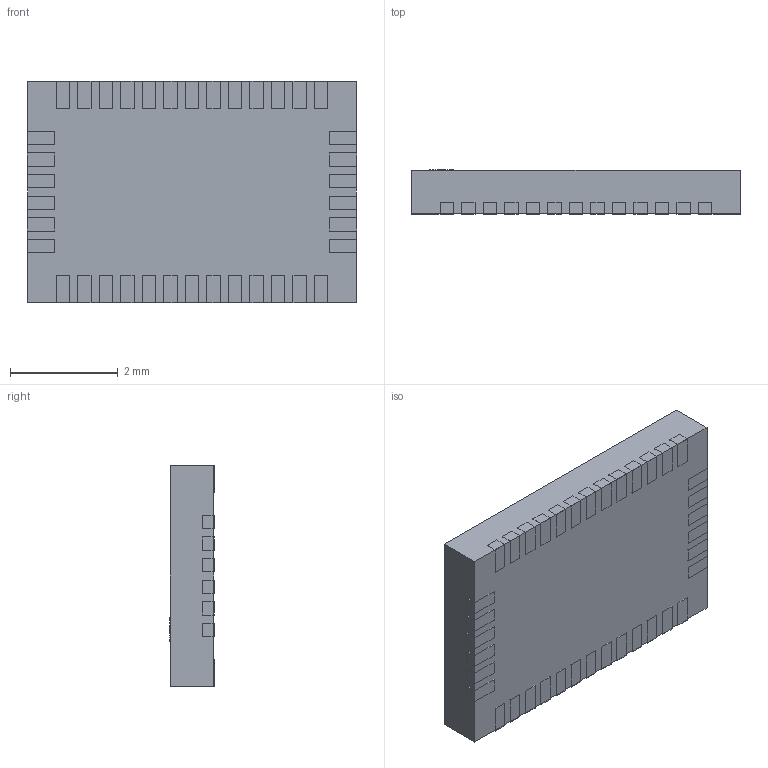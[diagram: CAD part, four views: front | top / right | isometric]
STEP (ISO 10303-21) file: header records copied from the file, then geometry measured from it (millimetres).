
FILE_DESCRIPTION(/* description */ (''),/* implementation_level */ '2;1');
FILE_NAME(/* name */ 'WQFN38-EP6x4.step',/* time_stamp */ '2024-01-28T14:04:19+01:00',/* author */ (''),/* organization */ (''),/* preprocessor_version */ 'ST-DEVELOPER v20',/* originating_system */ 'Autodesk Translation Framework v12.14.0.127',/* authorisation */ '');
FILE_SCHEMA (('AUTOMOTIVE_DESIGN { 1 0 10303 214 3 1 1 }'));
Length unit declared in the file: millimetre
Products named in the file (3): WQFN38-EP6x4; Body; pads
Assembly tree (2 placements, depth 2):
  WQFN38-EP6x4
    Body
    pads
Bounding box: 6.12 x 0.82 x 4.12 mm (x, y, z)
Volume: 21 mm3; surface area: 88.2 mm2
Topology: 39 solids, 39 shells, 236 faces, 471 edges, 314 vertices
Faces by surface type: plane 235, cylinder 1
Full cylindrical faces by diameter (mm): 0.447 x1
Entity records: 6040 total; most frequent: CARTESIAN_POINT 1026, DIRECTION 955, ORIENTED_EDGE 942, EDGE_CURVE 471, LINE 469, VECTOR 469, VERTEX_POINT 314, AXIS2_PLACEMENT_3D 243
